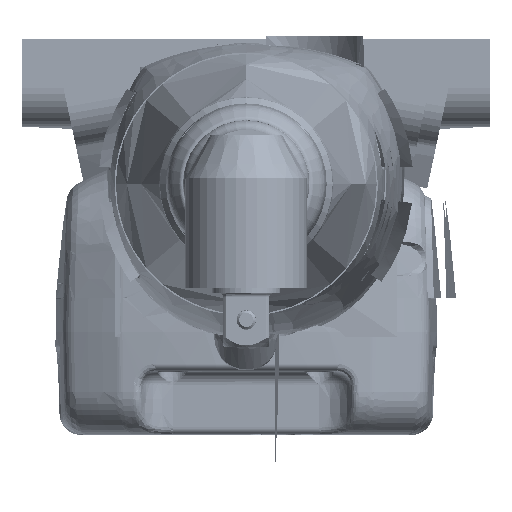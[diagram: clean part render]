
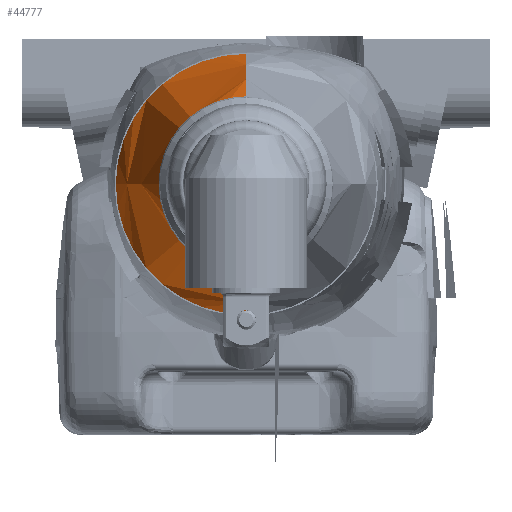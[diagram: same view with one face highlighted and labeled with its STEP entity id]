
A CAD part, top view. The second image highlights one B-rep face of the part: STEP entity #44777.
In plain terms, the highlighted free-form (B-spline) face has degree [3, 3] with [7, 4] control points.
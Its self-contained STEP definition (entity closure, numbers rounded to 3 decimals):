
#41565=CARTESIAN_POINT('',(0.,0.,32.879));
#41566=DIRECTION('',(0.,0.,1.));
#41567=DIRECTION('',(0.,1.,0.));
#41568=AXIS2_PLACEMENT_3D('',#41565,#41566,#41567);
#41570=CARTESIAN_POINT('',(0.,0.,1.382));
#41571=DIRECTION('',(0.,0.,1.));
#41572=DIRECTION('',(0.,1.,0.));
#41573=AXIS2_PLACEMENT_3D('',#41570,#41571,#41572);
#41580=CARTESIAN_POINT('',(0.,-145.125,-29.5));
#41581=DIRECTION('',(-1.,0.,0.));
#41582=DIRECTION('',(0.,0.934,0.357));
#41583=AXIS2_PLACEMENT_3D('',#41580,#41581,#41582);
#41590=CARTESIAN_POINT('',(0.,145.125,-29.5));
#41591=DIRECTION('',(1.,0.,0.));
#41592=DIRECTION('',(0.,-0.934,0.357));
#41593=AXIS2_PLACEMENT_3D('',#41590,#41591,#41592);
#42520=CARTESIAN_POINT('',(0.,26.757,1.382));
#42521=CARTESIAN_POINT('',(0.,-26.757,1.382));
#42522=VERTEX_POINT('',#42520);
#42523=VERTEX_POINT('',#42521);
#42702=CARTESIAN_POINT('',(0.,-17.989,32.879));
#42703=CARTESIAN_POINT('',(0.,17.989,32.879));
#42704=VERTEX_POINT('',#42702);
#42705=VERTEX_POINT('',#42703);
#44739=CARTESIAN_POINT('',(1.687,26.819,
0.738));
#44740=CARTESIAN_POINT('',(1.564,24.854,11.935));
#44741=CARTESIAN_POINT('',(1.372,21.811,22.887));
#44742=CARTESIAN_POINT('',(1.115,17.719,33.49));
#44743=CARTESIAN_POINT('',(-14.817,27.857,
0.738));
#44744=CARTESIAN_POINT('',(-13.732,25.817,
11.935));
#44745=CARTESIAN_POINT('',(-12.05,22.656,
22.887));
#44746=CARTESIAN_POINT('',(-9.789,18.405,
33.49));
#44747=CARTESIAN_POINT('',(-26.872,16.537,
0.738));
#44748=CARTESIAN_POINT('',(-24.903,15.326,
11.935));
#44749=CARTESIAN_POINT('',(-21.854,13.449,
22.887));
#44750=CARTESIAN_POINT('',(-17.754,10.926,
33.49));
#44751=CARTESIAN_POINT('',(-26.872,0.,0.738));
#44752=CARTESIAN_POINT('',(-24.903,0.,11.935));
#44753=CARTESIAN_POINT('',(-21.854,0.,22.887));
#44754=CARTESIAN_POINT('',(-17.754,0.,33.49));
#44755=CARTESIAN_POINT('',(-26.872,-16.537,
0.738));
#44756=CARTESIAN_POINT('',(-24.903,-15.326,
11.935));
#44757=CARTESIAN_POINT('',(-21.854,-13.449,
22.887));
#44758=CARTESIAN_POINT('',(-17.754,-10.926,
33.49));
#44759=CARTESIAN_POINT('',(-14.817,-27.857,
0.738));
#44760=CARTESIAN_POINT('',(-13.732,-25.817,
11.935));
#44761=CARTESIAN_POINT('',(-12.05,-22.656,
22.887));
#44762=CARTESIAN_POINT('',(-9.789,-18.405,
33.49));
#44763=CARTESIAN_POINT('',(1.687,-26.819,
0.738));
#44764=CARTESIAN_POINT('',(1.564,-24.854,
11.935));
#44765=CARTESIAN_POINT('',(1.372,-21.811,
22.887));
#44766=CARTESIAN_POINT('',(1.115,-17.719,
33.49));
#44767=(BOUNDED_SURFACE()B_SPLINE_SURFACE(3,3,((#44739,#44740,#44741,#44742),(
#44743,#44744,#44745,#44746),(#44747,#44748,#44749,#44750),(#44751,#44752,
#44753,#44754),(#44755,#44756,#44757,#44758),(#44759,#44760,#44761,#44762),(
#44763,#44764,#44765,#44766)),.UNSPECIFIED.,.F.,.F.,.F.)B_SPLINE_SURFACE_WITH_KNOTS((4,3,4),(4,4),(0.,1.,2.),(0.,1.),.UNSPECIFIED.)GEOMETRIC_REPRESENTATION_ITEM()RATIONAL_B_SPLINE_SURFACE(((1.19,1.186,
1.186,1.19),(0.94,0.937,
0.937,0.94),(0.94,0.937,
0.937,0.94),(1.19,1.186,
1.186,1.19),(0.94,0.937,
0.937,0.94),(0.94,0.937,
0.937,0.94),(1.19,1.186,
1.186,1.19)))REPRESENTATION_ITEM('')SURFACE());
#44768=ORIENTED_EDGE('',*,*,#44729,.T.);
#44770=ORIENTED_EDGE('',*,*,#44769,.T.);
#44772=ORIENTED_EDGE('',*,*,#44771,.F.);
#44774=ORIENTED_EDGE('',*,*,#44773,.F.);
#44775=EDGE_LOOP('',(#44768,#44770,#44772,#44774));
#44776=FACE_OUTER_BOUND('',#44775,.F.);
#44777=ADVANCED_FACE('',(#44776),#44767,.T.);
#41569=CIRCLE('',#41568,17.989);
#41574=CIRCLE('',#41573,26.757);
#41584=CIRCLE('',#41583,174.635);
#41594=CIRCLE('',#41593,174.635);
#44729=EDGE_CURVE('',#42705,#42704,#41569,.T.);
#44769=EDGE_CURVE('',#42704,#42523,#41594,.T.);
#44771=EDGE_CURVE('',#42522,#42523,#41574,.T.);
#44773=EDGE_CURVE('',#42705,#42522,#41584,.T.);
